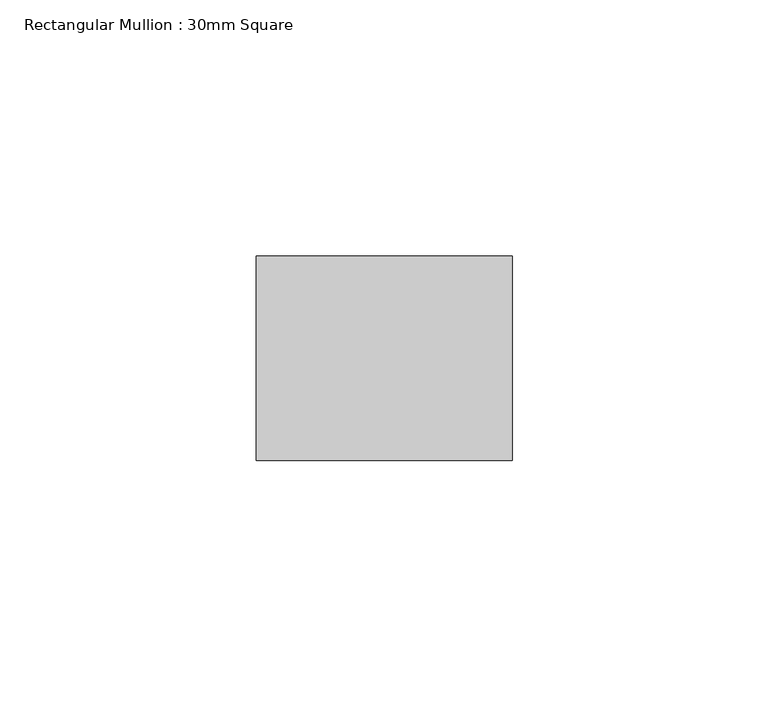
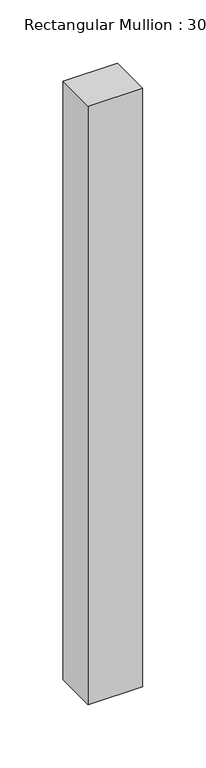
"""IFC4 building model written with IfcOpenShell, lengths in millimetres: member geometry, Rectangular Mullion : 30mm Square."""

from ifc_helpers import new_model, si_unit, frame, origin, place, context, project, spatial, polyline, outline, extrude, source, transform, mapped, element, save


def rectangular_mullion_30mm_square_d63b7fbb(model_context):
    return source(origin(), model_context, "Body", "SweptSolid", [
        extrude(outline(polyline([(0.0, 20.0), (0.0, -20.0), (-50.0, -20.0), (-50.0, 20.0), (0.0, 20.0)])), frame((0.0, 0.0, -579.1947054), z_axis=(0.0, 0.0, 1.0), x_axis=(1.0, 0.0, 0.0)), (0.0, 0.0, 1.0), 579.1947054),
    ])


if __name__ == "__main__":
    model = new_model("IFC4")
    model_context = context("Model", 3, world=origin())
    ifc_project = project(units=[si_unit("LENGTHUNIT", "METRE", prefix="MILLI")], contexts=[model_context])
    site = spatial("IfcSite", under=ifc_project)
    building = spatial("IfcBuilding", under=site)
    placement = place(None, origin())
    rectangular_mullion_30mm_square_shape = rectangular_mullion_30mm_square_d63b7fbb(model_context)
    element("IfcMember", 1, ObjectType="Rectangular Mullion : 30mm Square", at=placement, inside=building, context=model_context, shape_type="MappedRepresentation", body=[
        mapped(rectangular_mullion_30mm_square_shape, transform((0.0, 0.0, 0.0), x_axis=(1.0, 0.0, 0.0), y_axis=(0.0, 1.0, 0.0), z_axis=(0.0, 0.0, 1.0))),
    ])
    save(model, "model.ifc")
